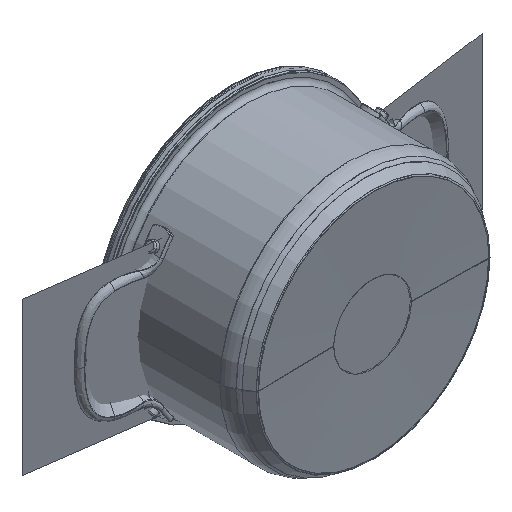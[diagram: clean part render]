
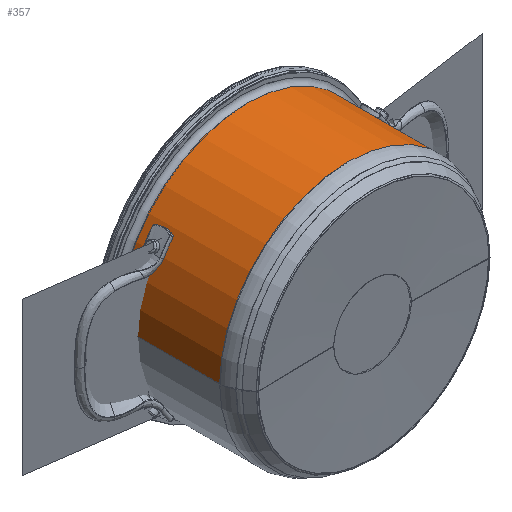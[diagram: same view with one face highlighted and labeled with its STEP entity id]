
A CAD part, isometric view. The second image highlights one B-rep face of the part: STEP entity #357.
In plain terms, the highlighted cylindrical face has radius 100.8 mm (diameter 201.6 mm), a partial arc.
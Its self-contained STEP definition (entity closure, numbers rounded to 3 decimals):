
#64=CARTESIAN_POINT('',(0.,100.,0.));
#65=DIRECTION('',(0.,-1.,0.));
#66=DIRECTION('',(1.,0.,0.));
#67=AXIS2_PLACEMENT_3D('',#64,#65,#66);
#69=CARTESIAN_POINT('',(0.,20.373,0.));
#70=DIRECTION('',(0.,-1.,0.));
#71=DIRECTION('',(1.,0.,0.));
#72=AXIS2_PLACEMENT_3D('',#69,#70,#71);
#74=DIRECTION('',(0.,1.,0.));
#75=VECTOR('',#74,79.627);
#76=CARTESIAN_POINT('',(100.8,20.373,0.));
#77=LINE('',#76,#75);
#78=DIRECTION('',(0.,1.,0.));
#79=VECTOR('',#78,79.627);
#80=CARTESIAN_POINT('',(-100.8,20.373,0.));
#81=LINE('',#80,#79);
#233=CARTESIAN_POINT('',(100.8,20.373,0.));
#234=VERTEX_POINT('',#233);
#235=CARTESIAN_POINT('',(100.8,100.,0.));
#236=VERTEX_POINT('',#235);
#243=CARTESIAN_POINT('',(-100.8,20.373,0.));
#244=VERTEX_POINT('',#243);
#245=CARTESIAN_POINT('',(-100.8,100.,0.));
#246=VERTEX_POINT('',#245);
#343=CARTESIAN_POINT('',(0.,109.5,0.));
#344=DIRECTION('',(0.,-1.,0.));
#345=DIRECTION('',(-1.,0.,0.));
#346=AXIS2_PLACEMENT_3D('',#343,#344,#345);
#347=CYLINDRICAL_SURFACE('',#346,100.8);
#349=ORIENTED_EDGE('',*,*,#348,.F.);
#351=ORIENTED_EDGE('',*,*,#350,.T.);
#353=ORIENTED_EDGE('',*,*,#352,.T.);
#354=ORIENTED_EDGE('',*,*,#336,.F.);
#355=EDGE_LOOP('',(#349,#351,#353,#354));
#356=FACE_OUTER_BOUND('',#355,.F.);
#357=ADVANCED_FACE('',(#356),#347,.T.);
#68=CIRCLE('',#67,100.8);
#73=CIRCLE('',#72,100.8);
#336=EDGE_CURVE('',#236,#246,#68,.T.);
#348=EDGE_CURVE('',#234,#236,#77,.T.);
#350=EDGE_CURVE('',#234,#244,#73,.T.);
#352=EDGE_CURVE('',#244,#246,#81,.T.);
